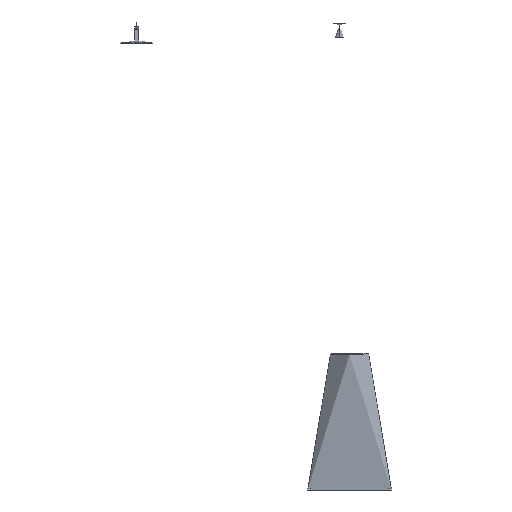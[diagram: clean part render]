
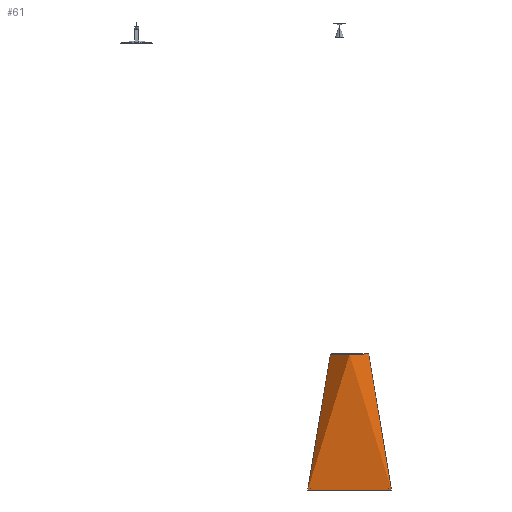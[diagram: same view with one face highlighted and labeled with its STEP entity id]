
A CAD part, left-side view. The second image highlights one B-rep face of the part: STEP entity #61.
In plain terms, the highlighted free-form (B-spline) face has degree [2, 2] with [5, 3] control points.
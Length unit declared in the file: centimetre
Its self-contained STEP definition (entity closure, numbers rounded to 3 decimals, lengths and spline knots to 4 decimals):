
#61=ADVANCED_FACE('',(#135),#882,.T.);
#135=FACE_OUTER_BOUND('',#194,.T.);
#194=EDGE_LOOP('',(#294,#295,#296,#297,#298));
#294=ORIENTED_EDGE('',*,*,#526,.T.);
#295=ORIENTED_EDGE('',*,*,#525,.T.);
#296=ORIENTED_EDGE('',*,*,#527,.F.);
#297=ORIENTED_EDGE('',*,*,#543,.F.);
#298=ORIENTED_EDGE('',*,*,#542,.F.);
#525=EDGE_CURVE('',#793,#792,#697,.T.);
#526=EDGE_CURVE('',#790,#793,#698,.T.);
#527=EDGE_CURVE('',#795,#792,#699,.T.);
#542=EDGE_CURVE('',#790,#804,#712,.T.);
#543=EDGE_CURVE('',#804,#795,#713,.T.);
#697=(
BOUNDED_CURVE()
B_SPLINE_CURVE(2,(#1401,#1402,#1403),.UNSPECIFIED.,.F.,.F.)
B_SPLINE_CURVE_WITH_KNOTS((3,3),(319.751,546.7965),
 .UNSPECIFIED.)
CURVE()
GEOMETRIC_REPRESENTATION_ITEM()
RATIONAL_B_SPLINE_CURVE((1.,0.987,1.))
REPRESENTATION_ITEM('')
);
#698=(
BOUNDED_CURVE()
B_SPLINE_CURVE(2,(#1404,#1405,#1406,#1407,#1408),.UNSPECIFIED.,.F.,.F.)
B_SPLINE_CURVE_WITH_KNOTS((3,2,3),(216.1513,324.227,432.3026),
 .UNSPECIFIED.)
CURVE()
GEOMETRIC_REPRESENTATION_ITEM()
RATIONAL_B_SPLINE_CURVE((1.,0.707,1.,0.707,1.))
REPRESENTATION_ITEM('')
);
#699=(
BOUNDED_CURVE()
B_SPLINE_CURVE(2,(#1409,#1410,#1411),.UNSPECIFIED.,.F.,.F.)
B_SPLINE_CURVE_WITH_KNOTS((3,3),(0.,49.4348),.UNSPECIFIED.)
CURVE()
GEOMETRIC_REPRESENTATION_ITEM()
RATIONAL_B_SPLINE_CURVE((1.,0.707,1.))
REPRESENTATION_ITEM('')
);
#712=(
BOUNDED_CURVE()
B_SPLINE_CURVE(2,(#1456,#1457,#1458),.UNSPECIFIED.,.F.,.F.)
B_SPLINE_CURVE_WITH_KNOTS((3,3),(319.751,546.7965),
 .UNSPECIFIED.)
CURVE()
GEOMETRIC_REPRESENTATION_ITEM()
RATIONAL_B_SPLINE_CURVE((1.,0.987,1.))
REPRESENTATION_ITEM('')
);
#713=(
BOUNDED_CURVE()
B_SPLINE_CURVE(2,(#1459,#1460,#1461),.UNSPECIFIED.,.F.,.F.)
B_SPLINE_CURVE_WITH_KNOTS((3,3),(148.3044,197.7391),
 .UNSPECIFIED.)
CURVE()
GEOMETRIC_REPRESENTATION_ITEM()
RATIONAL_B_SPLINE_CURVE((1.,0.707,1.))
REPRESENTATION_ITEM('')
);
#790=VERTEX_POINT('',#1374);
#792=VERTEX_POINT('',#1376);
#793=VERTEX_POINT('',#1377);
#795=VERTEX_POINT('',#1379);
#804=VERTEX_POINT('',#1388);
#882=(
BOUNDED_SURFACE()
B_SPLINE_SURFACE(2,2,((#1234,#1235,#1236),(#1237,#1238,#1239),(#1240,#1241,
#1242),(#1243,#1244,#1245),(#1246,#1247,#1248)),.UNSPECIFIED.,.F.,.F.,.F.)
B_SPLINE_SURFACE_WITH_KNOTS((3,2,3),(3,3),(216.1939,324.2909,
432.3878),(0.,630.7203),.UNSPECIFIED.)
GEOMETRIC_REPRESENTATION_ITEM()
RATIONAL_B_SPLINE_SURFACE(((1.,0.903,1.),(0.707,
0.639,0.707),(1.,0.903,1.),(0.707,
0.639,0.707),(1.,0.903,1.)))
REPRESENTATION_ITEM('')
SURFACE()
);
#1234=CARTESIAN_POINT('',(274.0815,169.4802,-384.9086));
#1235=CARTESIAN_POINT('',(274.0815,314.4901,-79.7928));
#1236=CARTESIAN_POINT('',(274.0815,169.4802,225.323));
#1237=CARTESIAN_POINT('',(274.0815,169.4802,-384.9086));
#1238=CARTESIAN_POINT('',(129.0716,314.4901,-79.7928));
#1239=CARTESIAN_POINT('',(274.0815,169.4802,225.323));
#1240=CARTESIAN_POINT('',(274.0815,169.4802,-384.9086));
#1241=CARTESIAN_POINT('',(129.0716,169.4802,-79.7928));
#1242=CARTESIAN_POINT('',(274.0815,169.4802,225.323));
#1243=CARTESIAN_POINT('',(274.0815,169.4802,-384.9086));
#1244=CARTESIAN_POINT('',(129.0716,24.4703,-79.7928));
#1245=CARTESIAN_POINT('',(274.0815,169.4802,225.323));
#1246=CARTESIAN_POINT('',(274.0815,169.4802,-384.9086));
#1247=CARTESIAN_POINT('',(274.0815,24.4703,-79.7928));
#1248=CARTESIAN_POINT('',(274.0815,169.4802,225.323));
#1374=CARTESIAN_POINT('',(274.0815,238.2833,-75.402));
#1376=CARTESIAN_POINT('',(274.0815,138.009,147.576));
#1377=CARTESIAN_POINT('',(274.0815,100.6771,-75.402));
#1379=CARTESIAN_POINT('',(242.6103,169.4802,147.576));
#1388=CARTESIAN_POINT('',(274.0815,200.9513,147.576));
#1401=CARTESIAN_POINT('',(274.0815,100.6771,-75.402));
#1402=CARTESIAN_POINT('',(274.0815,101.3843,39.0937));
#1403=CARTESIAN_POINT('',(274.0815,138.009,147.576));
#1404=CARTESIAN_POINT('',(274.0815,238.2833,-75.402));
#1405=CARTESIAN_POINT('',(205.2784,238.2833,-75.402));
#1406=CARTESIAN_POINT('',(205.2784,169.4802,-75.402));
#1407=CARTESIAN_POINT('',(205.2784,100.6771,-75.402));
#1408=CARTESIAN_POINT('',(274.0815,100.6771,-75.402));
#1409=CARTESIAN_POINT('',(242.6103,169.4802,147.576));
#1410=CARTESIAN_POINT('',(242.6103,138.009,147.576));
#1411=CARTESIAN_POINT('',(274.0815,138.009,147.576));
#1456=CARTESIAN_POINT('',(274.0815,238.2833,-75.402));
#1457=CARTESIAN_POINT('',(274.0815,237.576,39.0937));
#1458=CARTESIAN_POINT('',(274.0815,200.9513,147.576));
#1459=CARTESIAN_POINT('',(274.0815,200.9513,147.576));
#1460=CARTESIAN_POINT('',(242.6103,200.9513,147.576));
#1461=CARTESIAN_POINT('',(242.6103,169.4802,147.576));
